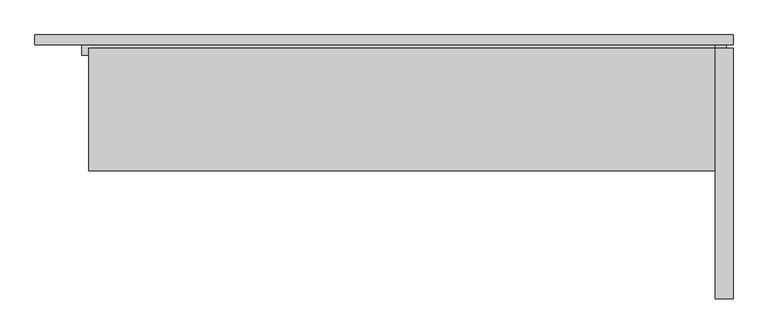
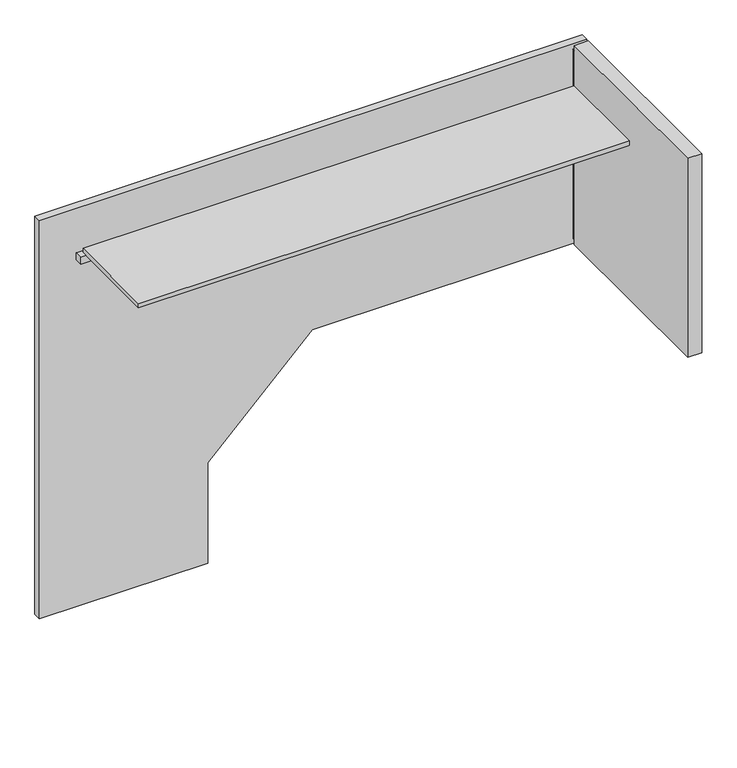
"""IFC4 building model written with IfcOpenShell, lengths in millimetres: proxy geometry, BASYS^OFFICE 2_DESK-LOOP LEG LT."""

from ifc_helpers import new_model, si_unit, frame, origin, place, context, project, spatial, polyline, outline, extrude, source, transform, mapped, element, save


def generic_models_f3be4459(model_context):
    return source(origin(), model_context, "Body", "SweptSolid", [
        extrude(outline(polyline([(1981.2, -9.525), (1981.2, -720.725), (1930.4, -720.725), (1930.4, -9.525), (1981.2, -9.525)])), frame((0.0, 0.0, 762.0), z_axis=(0.0, 0.0, 1.0), x_axis=(1.0, 0.0, 0.0)), (0.0, 0.0, 1.0), 762.0),
        extrude(outline(polyline([(1943.1, -28.575), (133.35, -28.575), (133.35, 0.0), (1943.1, 0.0), (1943.1, -28.575)])), frame((0.0, 0.0, 1328.7375), z_axis=(0.0, 0.0, 1.0), x_axis=(1.0, 0.0, 0.0)), (0.0, 0.0, 1.0), 25.4),
        extrude(outline(polyline([(762.0, 1981.2), (1524.0, 1981.2), (1524.0, 0.0), (0.0, 0.0), (0.0, 609.6), (384.8292429, 609.6), (762.0, 986.7707571), (762.0, 1981.2)])), frame((0.0, 0.0, 0.0), z_axis=(0.0, 1.0, 0.0), x_axis=(0.0, 0.0, 1.0)), (0.0, 0.0, 1.0), 28.575),
        extrude(outline(polyline([(1962.15, -9.525), (1930.4, -9.525), (1930.4, 0.0), (1962.15, 0.0), (1962.15, -9.525)])), frame((0.0, 0.0, 781.05), z_axis=(0.0, 0.0, 1.0), x_axis=(1.0, 0.0, 0.0)), (0.0, 0.0, 1.0), 723.9),
        extrude(outline(polyline([(1930.4, -9.525), (1930.4, -356.87), (152.4, -356.87), (152.4, -9.525), (1930.4, -9.525)])), frame((0.0, 0.0, 1354.1375), z_axis=(0.0, 0.0, 1.0), x_axis=(1.0, 0.0, 0.0)), (0.0, 0.0, 1.0), 15.875),
    ])


if __name__ == "__main__":
    model = new_model("IFC4")
    model_context = context("Model", 3, world=origin())
    ifc_project = project(units=[si_unit("LENGTHUNIT", "METRE", prefix="MILLI")], contexts=[model_context])
    site = spatial("IfcSite", under=ifc_project)
    building = spatial("IfcBuilding", under=site)
    placement = place(None, origin())
    generic_models_shape = generic_models_f3be4459(model_context)
    element("IfcBuildingElementProxy", 1, Name="BASYS^OFFICE 2_DESK-LOOP LEG LT", ObjectType="BASYS^OFFICE 2_DESK-LOOP LEG LT", at=placement, inside=building, context=model_context, shape_type="MappedRepresentation", body=[
        mapped(generic_models_shape, transform((0.0, 0.0, 0.0), x_axis=(1.0, 0.0, 0.0), y_axis=(0.0, 1.0, 0.0), z_axis=(0.0, 0.0, 1.0))),
    ])
    save(model, "model.ifc")
